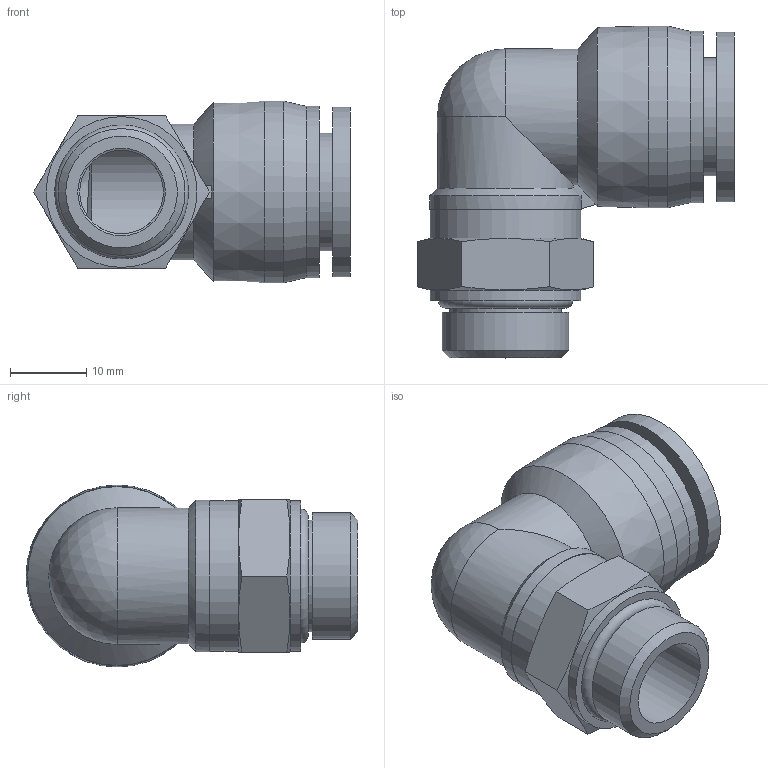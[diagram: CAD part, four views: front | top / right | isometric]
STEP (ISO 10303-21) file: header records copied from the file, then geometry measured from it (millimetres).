
FILE_DESCRIPTION(/* description */ (''),/* implementation_level */ '2;1');
FILE_NAME(/* name */ 'S:\_Tecnico\ArchivioUT\_Disegni3D ingombri\DISEGNI 3D per ingombri\RP\RP 72\RP723814.stp',/* time_stamp */ '2019-09-02T14:48:30+02:00',/* author */ ('ufficiotecnico3'),/* organization */ (''),/* preprocessor_version */ 'ST-DEVELOPER v18',/* originating_system */ 'Autodesk Inventor 2020',/* authorisation */ '');
FILE_SCHEMA (('AUTOMOTIVE_DESIGN { 1 0 10303 214 3 1 1 }'));
Length unit declared in the file: millimetre
Products named in the file (1): RP723814
Bounding box: 41.6 x 43.6 x 23.9 mm (x, y, z)
Volume: 11092.4 mm3; surface area: 7353.8 mm2
Topology: 1 solids, 1 shells, 43 faces, 119 edges, 82 vertices
Faces by surface type: plane 18, cylinder 14, cone 9, sphere 1, torus 1
Full cylindrical faces by diameter (mm): 11 x1, 11.5 x1, 14 x1, 14.7 x1, 15.5 x1, 16.662 x1, 19.8 x2, 19.9 x1, 22.3 x1, 22.5 x1, 23.9 x1
Entity records: 1498 total; most frequent: CARTESIAN_POINT 336, DIRECTION 244, ORIENTED_EDGE 236, EDGE_CURVE 118, AXIS2_PLACEMENT_3D 103, VERTEX_POINT 82, CIRCLE 57, EDGE_LOOP 50
